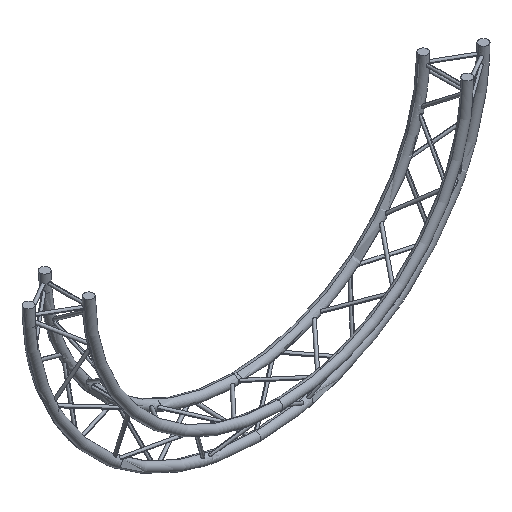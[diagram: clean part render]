
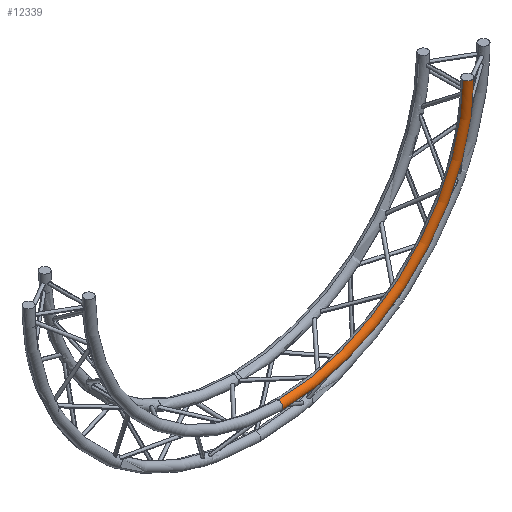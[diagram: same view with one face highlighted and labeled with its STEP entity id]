
A CAD part, isometric view. The second image highlights one B-rep face of the part: STEP entity #12339.
In plain terms, the highlighted toroidal (fillet/blend) face has major radius 1019.75 mm and minor radius 25 mm.
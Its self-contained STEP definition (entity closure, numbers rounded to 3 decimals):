
#11044 = DIRECTION ( 'NONE',  ( 0., 0., -1. ) ) ;
#11045 = DIRECTION ( 'NONE',  ( 0., -1., 0. ) ) ;
#11046 = CARTESIAN_POINT ( 'NONE',  ( 0., -118.5, 0. ) ) ;
#11047 = AXIS2_PLACEMENT_3D ( 'NONE', #11046, #11045, #11044 ) ;
#11048 = CIRCLE ( 'NONE', #11047, 1044.752 ) ;
#11093 = CARTESIAN_POINT ( 'NONE',  ( 0., -118.5, -1019.752 ) ) ;
#11095 = CARTESIAN_POINT ( 'NONE',  ( 1044.752, -118.5, 0. ) ) ;
#11106 = CARTESIAN_POINT ( 'NONE',  ( 0., -118.5, -994.752 ) ) ;
#11116 = DIRECTION ( 'NONE',  ( 0., 0., 1. ) ) ;
#11117 = DIRECTION ( 'NONE',  ( -1., 0., 0. ) ) ;
#11118 = AXIS2_PLACEMENT_3D ( 'NONE', #11093, #11117, #11116 ) ;
#11119 = CIRCLE ( 'NONE', #11118, 25. ) ;
#11258 = CARTESIAN_POINT ( 'NONE',  ( 0., -118.5, 0. ) ) ;
#11259 = TOROIDAL_SURFACE ( 'NONE', #11336, 1019.752, 25. ) ;
#11260 = FACE_OUTER_BOUND ( 'NONE', #12348, .T. ) ;
#11329 = CARTESIAN_POINT ( 'NONE',  ( 0., -118.5, -1044.752 ) ) ;
#11334 = DIRECTION ( 'NONE',  ( 0., 0., -1. ) ) ;
#11335 = DIRECTION ( 'NONE',  ( 0., -1., 0. ) ) ;
#11336 = AXIS2_PLACEMENT_3D ( 'NONE', #11258, #11335, #11334 ) ;
#11399 = DIRECTION ( 'NONE',  ( 0., 0., -1. ) ) ;
#11400 = DIRECTION ( 'NONE',  ( 0., -1., 0. ) ) ;
#11401 = CARTESIAN_POINT ( 'NONE',  ( 0., -118.5, 0. ) ) ;
#11402 = AXIS2_PLACEMENT_3D ( 'NONE', #11401, #11400, #11399 ) ;
#11403 = CIRCLE ( 'NONE', #11402, 994.752 ) ;
#11405 = CARTESIAN_POINT ( 'NONE',  ( 994.752, -118.5, 0. ) ) ;
#11819 = CIRCLE ( 'NONE', #11933, 25. ) ;
#11930 = DIRECTION ( 'NONE',  ( 1., 0., 0. ) ) ;
#11931 = DIRECTION ( 'NONE',  ( 0., 0., 1. ) ) ;
#11932 = CARTESIAN_POINT ( 'NONE',  ( 1019.752, -118.5, 0. ) ) ;
#11933 = AXIS2_PLACEMENT_3D ( 'NONE', #11932, #11931, #11930 ) ;
#12287 = EDGE_CURVE ( 'NONE', #12341, #12313, #11048, .T. ) ;
#12304 = ORIENTED_EDGE ( 'NONE', *, *, #12287, .T. ) ;
#12313 = VERTEX_POINT ( 'NONE', #11095 ) ;
#12316 = EDGE_CURVE ( 'NONE', #12341, #12323, #11119, .T. ) ;
#12323 = VERTEX_POINT ( 'NONE', #11106 ) ;
#12339 = ADVANCED_FACE ( 'NONE', ( #11260 ), #11259, .T. ) ;
#12341 = VERTEX_POINT ( 'NONE', #11329 ) ;
#12348 = EDGE_LOOP ( 'NONE', ( #12350, #12304, #12359, #12407 ) ) ;
#12350 = ORIENTED_EDGE ( 'NONE', *, *, #12316, .F. ) ;
#12354 = VERTEX_POINT ( 'NONE', #11405 ) ;
#12357 = EDGE_CURVE ( 'NONE', #12323, #12354, #11403, .T. ) ;
#12359 = ORIENTED_EDGE ( 'NONE', *, *, #12416, .F. ) ;
#12407 = ORIENTED_EDGE ( 'NONE', *, *, #12357, .F. ) ;
#12416 = EDGE_CURVE ( 'NONE', #12354, #12313, #11819, .T. ) ;
